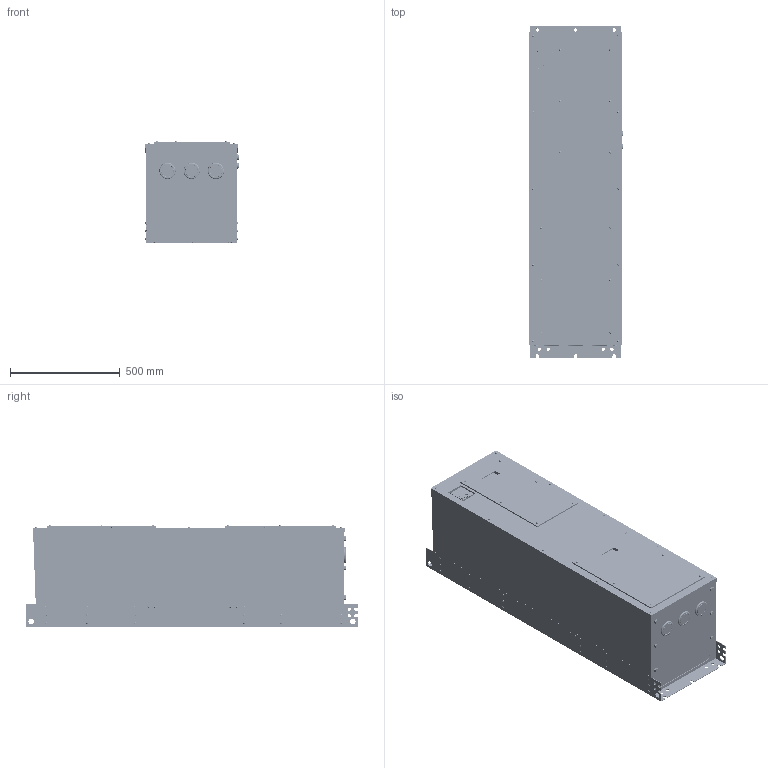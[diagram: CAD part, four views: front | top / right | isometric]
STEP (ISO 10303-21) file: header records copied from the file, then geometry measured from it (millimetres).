
FILE_DESCRIPTION((''),'2;1');
FILE_NAME('3D-INV-A8-09_05_ASM','2015-03-12T',('KF22000'),(''),'PRO/ENGINEER BY PARAMETRIC TECHNOLOGY CORPORATION, 2014090','PRO/ENGINEER BY PARAMETRIC TECHNOLOGY CORPORATION, 2014090','');
FILE_SCHEMA(('CONFIG_CONTROL_DESIGN'));
Products named in the file (33): 3D-WAKU_C2-A8-09_05-01; 3D-WAKU-A8-09_05_ASM; 3D-FAN-3610VL-05W-B59-BQ2; 3D-SW-M4X32-A8; 3D-FAN_ASSY-A8-09_05_ASM; 3D-COVER_FAN-A8-09_05; 3D-COVER_FAN_ASSY-A8-09_05_ASM; 3D-FAN_BKT_TE-A8-09_05; 3D-SWPWPNAM4X10_S902N034-A8; 3D-FAN_TE_ASSY-A8-09_05_ASM; 3D-FAN_BKT_CA-A8-09_05; 3D-FAN_CA_ASSY-A8-09_05_ASM; 3D-DOT_TE_TAN-A8-09_05; 3D-M10X30; 3D-TE_BOLT_ASSY-A8-09_05_ASM; 3D-TA-A8; 3D-A8-TA_ASM; 3D-BOLT-M12X25; 3D-BOLT_ASSY-M12X25-A8-09_05_ASM; 3D-GROM_C-30-SG-64A-EP-UL; 3D-GROM_ASSY-64A-A8-09_05_ASM; 3D-GROM_C-30-SG-22A-A8-09_02; 3D-GROM_ASSY-22A-A8-09_05_ASM; 3D-COVER_ASSY-A8-09_05-01; 3D-COVER_ASSY-A8-09_05-01_ASM; 3D-COVER_TE_ASSY-A8-09_05; 3D-COVER_TE_ASSY-A8-09_05_ASM; 3D-COVER_CA_ASSY-A8-09_05; 3D-COVER_CA_ASSY-A8-09_05_ASM; 3D-DU-IP55-A8; 3D-TORX_ASSY-M5-L20; 3D-TORX_ASSY-M5-L20_ASM; 3D-INV-A8-09_05_ASM
Assembly tree (91 placements, depth 3):
  3D-INV-A8-09_05_ASM
    3D-WAKU-A8-09_05_ASM
      3D-WAKU_C2-A8-09_05-01
    3D-FAN_ASSY-A8-09_05_ASM
      3D-FAN-3610VL-05W-B59-BQ2  x3
      3D-SW-M4X32-A8  x4
    3D-COVER_FAN_ASSY-A8-09_05_ASM
      3D-COVER_FAN-A8-09_05
      3D-SW-M4X32-A8  x2
    3D-FAN_TE_ASSY-A8-09_05_ASM
      3D-FAN_BKT_TE-A8-09_05
      3D-FAN-3610VL-05W-B59-BQ2
      3D-SW-M4X32-A8  x2
      3D-SWPWPNAM4X10_S902N034-A8  x4
    3D-FAN_CA_ASSY-A8-09_05_ASM
      3D-FAN_BKT_CA-A8-09_05
      3D-FAN-3610VL-05W-B59-BQ2
      3D-SW-M4X32-A8  x2
      3D-SWPWPNAM4X10_S902N034-A8  x2
    3D-DOT_TE_TAN-A8-09_05
    3D-TE_BOLT_ASSY-A8-09_05_ASM
      3D-M10X30  x9
    3D-M10X30  x2
    3D-A8-TA_ASM
      3D-TA-A8
    3D-BOLT_ASSY-M12X25-A8-09_05_ASM
      3D-BOLT-M12X25  x6
    3D-GROM_ASSY-64A-A8-09_05_ASM
      3D-GROM_C-30-SG-64A-EP-UL  x3
    3D-GROM_ASSY-22A-A8-09_05_ASM
      3D-GROM_C-30-SG-22A-A8-09_02  x4
    3D-COVER_ASSY-A8-09_05-01_ASM
      3D-COVER_ASSY-A8-09_05-01
    3D-COVER_TE_ASSY-A8-09_05_ASM
      3D-COVER_TE_ASSY-A8-09_05
    3D-COVER_CA_ASSY-A8-09_05_ASM
      3D-COVER_CA_ASSY-A8-09_05
    3D-DU-IP55-A8
    3D-TORX_ASSY-M5-L20_ASM  x22
      3D-TORX_ASSY-M5-L20
Bounding box: 424.17 x 1510 x 461.85 mm (x, y, z)
Volume: 201236721.2 mm3; surface area: 6768256.5 mm2
Topology: 77 solids, 232 shells, 8662 faces, 21469 edges, 13868 vertices
Faces by surface type: plane 5475, cylinder 2397, torus 276, cone 258, sphere 152, bspline 104
Entity records: 218842 total; most frequent: CARTESIAN_POINT 38442, DIRECTION 37694, ORIENTED_EDGE 36366, EDGE_CURVE 18183, VECTOR 13276, LINE 13276, AXIS2_PLACEMENT_3D 12209, VERTEX_POINT 11900
